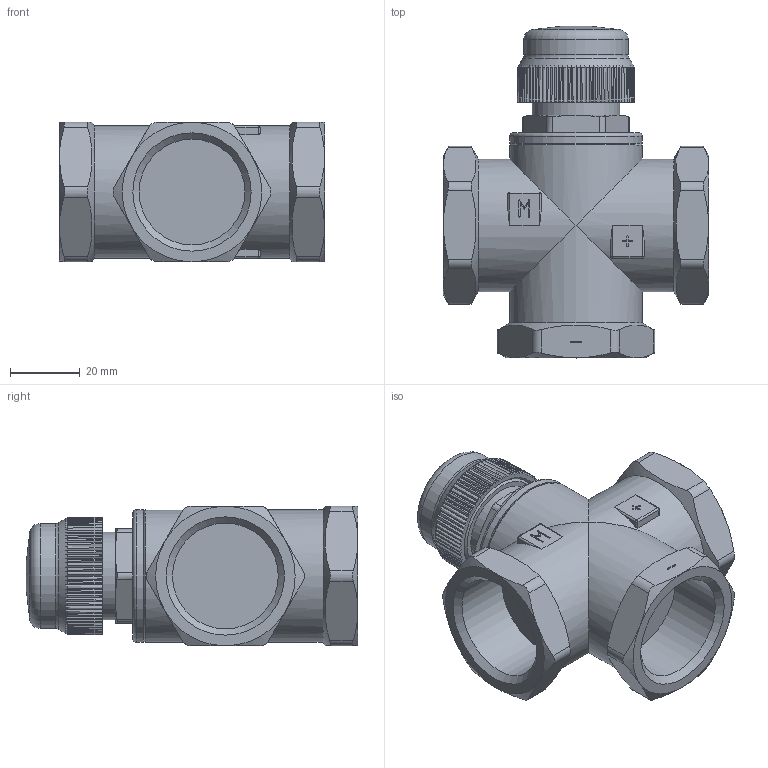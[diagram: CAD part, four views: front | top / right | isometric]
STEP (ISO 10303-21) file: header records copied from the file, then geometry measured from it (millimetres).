
FILE_DESCRIPTION(('STEP AP203'), '1');
FILE_NAME('VT.MR03.N.0603', '2026-02-10T12:08:39', ('LedenevaEA'), (''), 'C3D Converter', 'C3D Toolkit', '');
FILE_SCHEMA(('CONFIG_CONTROL_DESIGN'));
Length unit declared in the file: millimetre
Products named in the file (1): ВР.493112.010.000 СБ
Bounding box: 76 x 95.12 x 40 mm (x, y, z)
Volume: 111999.7 mm3; surface area: 25689 mm2
Topology: 1 solids, 1 shells, 553 faces, 1550 edges, 1006 vertices
Faces by surface type: plane 333, cone 108, cylinder 54, extrusion 44, sphere 9, torus 5
Full cylindrical faces by diameter (mm): 25 x1, 30 x1, 30.292 x3, 38 x5
Entity records: 22117 total; most frequent: CARTESIAN_POINT 8832, ORIENTED_EDGE 3016, DIRECTION 2362, EDGE_CURVE 1508, VERTEX_POINT 1002, AXIS2_PLACEMENT_3D 832, VECTOR 698, LINE 654
